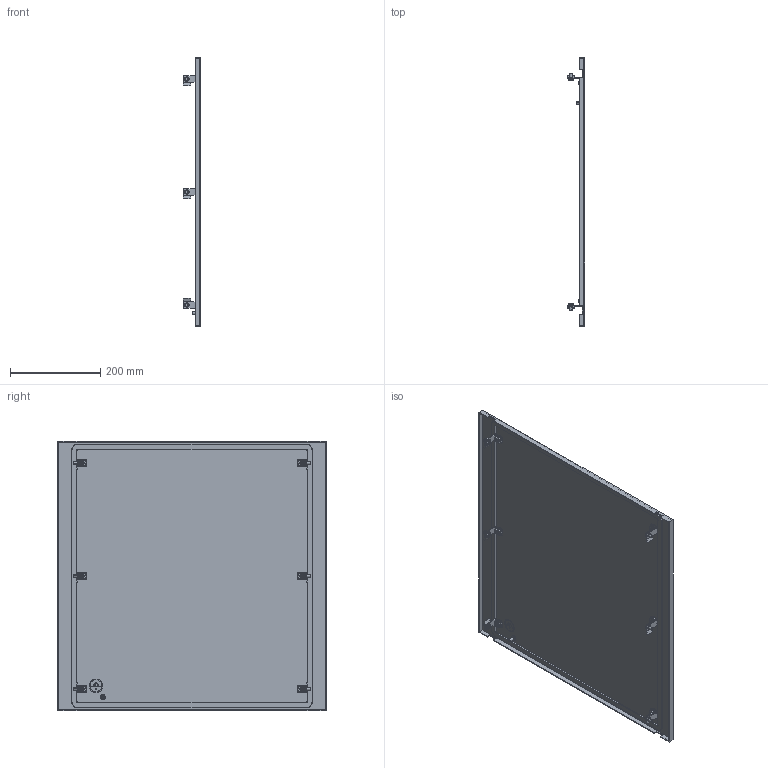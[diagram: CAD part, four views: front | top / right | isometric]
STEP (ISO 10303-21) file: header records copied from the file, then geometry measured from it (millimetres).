
FILE_DESCRIPTION (( 'STEP AP214' ), '1' );
FILE_NAME ('FO-00-PWSB-060-060 Ôàëüø-ïàíåëü âíåøíÿÿ ãëóõàÿ 600õ600 ìì.STEP', '2025-08-25T08:20:11', ( '' ), ( '' ), 'SwSTEP 2.0', 'SolidWorks 2023', '' );
FILE_SCHEMA (( 'AUTOMOTIVE_DESIGN' ));
Length unit declared in the file: millimetre
Products named in the file (1): FO-00-PWSB-060-060 Фальш-панель внешняя глухая 600х600 мм
Bounding box: 38.5 x 595 x 596 mm (x, y, z)
Volume: 852894.5 mm3; surface area: 794914.3 mm2
Topology: 1 solids, 14 shells, 1223 faces, 3024 edges, 1855 vertices
Faces by surface type: plane 771, cylinder 288, cone 132, torus 32
Entity records: 36557 total; most frequent: CARTESIAN_POINT 7073, DIRECTION 6294, ORIENTED_EDGE 6044, EDGE_CURVE 3022, AXIS2_PLACEMENT_3D 2144, VECTOR 2006, LINE 2006, VERTEX_POINT 1855
